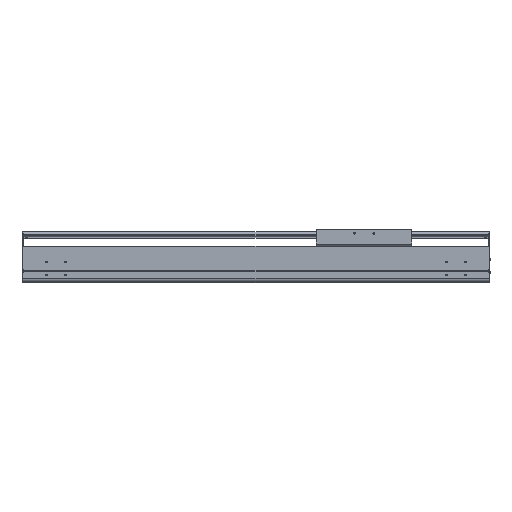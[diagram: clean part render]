
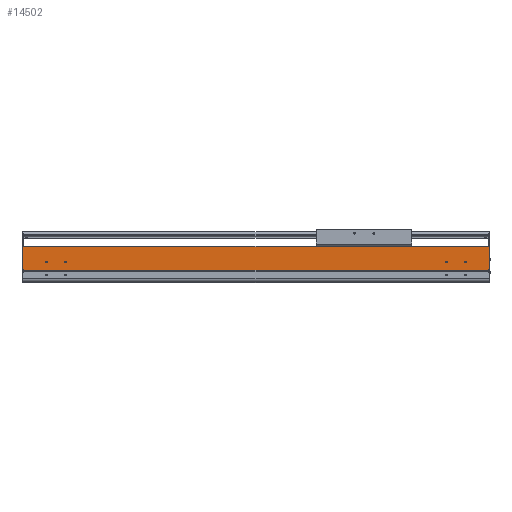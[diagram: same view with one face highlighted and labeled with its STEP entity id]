
A CAD part, top view. The second image highlights one B-rep face of the part: STEP entity #14502.
In plain terms, the highlighted planar face has unit normal (0, 0, 1).
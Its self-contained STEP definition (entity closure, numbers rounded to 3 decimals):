
#1840=DIRECTION('',(0.,-1.,0.));
#1841=VECTOR('',#1840,2.55);
#1842=CARTESIAN_POINT('',(0.,34.65,107.));
#1843=LINE('',#1842,#1841);
#2323=DIRECTION('',(1.,0.,0.));
#2324=VECTOR('',#2323,2.);
#2325=CARTESIAN_POINT('',(-1221.,34.65,107.));
#2326=LINE('',#2325,#2324);
#2327=CARTESIAN_POINT('',(-59.5,54.,107.));
#2328=DIRECTION('',(0.,0.,-1.));
#2329=DIRECTION('',(1.,0.,0.));
#2330=AXIS2_PLACEMENT_3D('',#2327,#2328,#2329);
#2332=CARTESIAN_POINT('',(-59.5,54.,107.));
#2333=DIRECTION('',(0.,0.,-1.));
#2334=DIRECTION('',(-1.,0.,0.));
#2335=AXIS2_PLACEMENT_3D('',#2332,#2333,#2334);
#2337=CARTESIAN_POINT('',(-109.5,54.,107.));
#2338=DIRECTION('',(0.,0.,-1.));
#2339=DIRECTION('',(1.,0.,0.));
#2340=AXIS2_PLACEMENT_3D('',#2337,#2338,#2339);
#2342=CARTESIAN_POINT('',(-109.5,54.,107.));
#2343=DIRECTION('',(0.,0.,-1.));
#2344=DIRECTION('',(-1.,0.,0.));
#2345=AXIS2_PLACEMENT_3D('',#2342,#2343,#2344);
#2347=CARTESIAN_POINT('',(-1159.5,54.,107.));
#2348=DIRECTION('',(0.,0.,-1.));
#2349=DIRECTION('',(1.,0.,0.));
#2350=AXIS2_PLACEMENT_3D('',#2347,#2348,#2349);
#2352=CARTESIAN_POINT('',(-1159.5,54.,107.));
#2353=DIRECTION('',(0.,0.,-1.));
#2354=DIRECTION('',(-1.,0.,0.));
#2355=AXIS2_PLACEMENT_3D('',#2352,#2353,#2354);
#2357=CARTESIAN_POINT('',(-1109.5,54.,107.));
#2358=DIRECTION('',(0.,0.,-1.));
#2359=DIRECTION('',(1.,0.,0.));
#2360=AXIS2_PLACEMENT_3D('',#2357,#2358,#2359);
#2362=CARTESIAN_POINT('',(-1109.5,54.,107.));
#2363=DIRECTION('',(0.,0.,-1.));
#2364=DIRECTION('',(-1.,0.,0.));
#2365=AXIS2_PLACEMENT_3D('',#2362,#2363,#2364);
#2367=DIRECTION('',(0.,-1.,0.));
#2368=VECTOR('',#2367,2.55);
#2369=CARTESIAN_POINT('',(-1219.,34.65,107.));
#2370=LINE('',#2369,#2368);
#2371=DIRECTION('',(0.,-1.,0.));
#2372=VECTOR('',#2371,58.85);
#2373=CARTESIAN_POINT('',(-1221.,93.5,107.));
#2374=LINE('',#2373,#2372);
#2375=DIRECTION('',(0.,1.,0.));
#2376=VECTOR('',#2375,58.85);
#2377=CARTESIAN_POINT('',(2.,34.65,107.));
#2378=LINE('',#2377,#2376);
#2379=DIRECTION('',(1.,0.,0.));
#2380=VECTOR('',#2379,1219.);
#2381=CARTESIAN_POINT('',(-1219.,32.1,107.));
#2382=LINE('',#2381,#2380);
#2487=DIRECTION('',(-1.,0.,0.));
#2488=VECTOR('',#2487,1223.);
#2489=CARTESIAN_POINT('',(2.,93.5,107.));
#2490=LINE('',#2489,#2488);
#7819=DIRECTION('',(1.,0.,0.));
#7820=VECTOR('',#7819,2.);
#7821=CARTESIAN_POINT('',(0.,34.65,107.));
#7822=LINE('',#7821,#7820);
#9149=CARTESIAN_POINT('',(-1221.,34.65,107.));
#9150=VERTEX_POINT('',#9149);
#9151=CARTESIAN_POINT('',(-1221.,93.5,107.));
#9152=VERTEX_POINT('',#9151);
#9381=CARTESIAN_POINT('',(-1219.,32.1,107.));
#9382=VERTEX_POINT('',#9381);
#9665=CARTESIAN_POINT('',(0.,32.1,107.));
#9666=VERTEX_POINT('',#9665);
#9667=CARTESIAN_POINT('',(-57.,54.,107.));
#9668=CARTESIAN_POINT('',(-62.,54.,107.));
#9669=VERTEX_POINT('',#9667);
#9670=VERTEX_POINT('',#9668);
#9671=CARTESIAN_POINT('',(-107.,54.,107.));
#9672=CARTESIAN_POINT('',(-112.,54.,107.));
#9673=VERTEX_POINT('',#9671);
#9674=VERTEX_POINT('',#9672);
#9675=CARTESIAN_POINT('',(-1157.,54.,107.));
#9676=CARTESIAN_POINT('',(-1162.,54.,107.));
#9677=VERTEX_POINT('',#9675);
#9678=VERTEX_POINT('',#9676);
#9679=CARTESIAN_POINT('',(-1107.,54.,107.));
#9680=CARTESIAN_POINT('',(-1112.,54.,107.));
#9681=VERTEX_POINT('',#9679);
#9682=VERTEX_POINT('',#9680);
#10326=CARTESIAN_POINT('',(2.,34.65,107.));
#10327=VERTEX_POINT('',#10326);
#10328=CARTESIAN_POINT('',(2.,93.5,107.));
#10329=VERTEX_POINT('',#10328);
#10780=CARTESIAN_POINT('',(0.,34.65,107.));
#10781=VERTEX_POINT('',#10780);
#10860=CARTESIAN_POINT('',(-1219.,34.65,107.));
#10861=VERTEX_POINT('',#10860);
#14460=CARTESIAN_POINT('',(-609.5,62.8,107.));
#14461=DIRECTION('',(0.,0.,1.));
#14462=DIRECTION('',(0.,-1.,0.));
#14463=AXIS2_PLACEMENT_3D('',#14460,#14461,#14462);
#14464=PLANE('',#14463);
#14465=ORIENTED_EDGE('',*,*,#11946,.F.);
#14466=ORIENTED_EDGE('',*,*,#14455,.F.);
#14467=ORIENTED_EDGE('',*,*,#12575,.F.);
#14469=ORIENTED_EDGE('',*,*,#14468,.F.);
#14470=ORIENTED_EDGE('',*,*,#11683,.F.);
#14472=ORIENTED_EDGE('',*,*,#14471,.F.);
#14473=ORIENTED_EDGE('',*,*,#14063,.T.);
#14475=ORIENTED_EDGE('',*,*,#14474,.F.);
#14476=EDGE_LOOP('',(#14465,#14466,#14467,#14469,#14470,#14472,#14473,#14475));
#14477=FACE_OUTER_BOUND('',#14476,.F.);
#14479=ORIENTED_EDGE('',*,*,#14478,.F.);
#14481=ORIENTED_EDGE('',*,*,#14480,.F.);
#14482=EDGE_LOOP('',(#14479,#14481));
#14483=FACE_BOUND('',#14482,.F.);
#14485=ORIENTED_EDGE('',*,*,#14484,.F.);
#14487=ORIENTED_EDGE('',*,*,#14486,.F.);
#14488=EDGE_LOOP('',(#14485,#14487));
#14489=FACE_BOUND('',#14488,.F.);
#14491=ORIENTED_EDGE('',*,*,#14490,.F.);
#14493=ORIENTED_EDGE('',*,*,#14492,.F.);
#14494=EDGE_LOOP('',(#14491,#14493));
#14495=FACE_BOUND('',#14494,.F.);
#14497=ORIENTED_EDGE('',*,*,#14496,.F.);
#14499=ORIENTED_EDGE('',*,*,#14498,.F.);
#14500=EDGE_LOOP('',(#14497,#14499));
#14501=FACE_BOUND('',#14500,.F.);
#14502=ADVANCED_FACE('',(#14477,#14483,#14489,#14495,#14501),#14464,.T.);
#2331=CIRCLE('',#2330,2.5);
#2336=CIRCLE('',#2335,2.5);
#2341=CIRCLE('',#2340,2.5);
#2346=CIRCLE('',#2345,2.5);
#2351=CIRCLE('',#2350,2.5);
#2356=CIRCLE('',#2355,2.5);
#2361=CIRCLE('',#2360,2.5);
#2366=CIRCLE('',#2365,2.5);
#11683=EDGE_CURVE('',#10327,#10329,#2378,.T.);
#11946=EDGE_CURVE('',#10861,#9382,#2370,.T.);
#12575=EDGE_CURVE('',#9152,#9150,#2374,.T.);
#14063=EDGE_CURVE('',#10781,#9666,#1843,.T.);
#14455=EDGE_CURVE('',#9150,#10861,#2326,.T.);
#14468=EDGE_CURVE('',#10329,#9152,#2490,.T.);
#14471=EDGE_CURVE('',#10781,#10327,#7822,.T.);
#14474=EDGE_CURVE('',#9382,#9666,#2382,.T.);
#14478=EDGE_CURVE('',#9673,#9674,#2341,.T.);
#14480=EDGE_CURVE('',#9674,#9673,#2346,.T.);
#14484=EDGE_CURVE('',#9677,#9678,#2351,.T.);
#14486=EDGE_CURVE('',#9678,#9677,#2356,.T.);
#14490=EDGE_CURVE('',#9681,#9682,#2361,.T.);
#14492=EDGE_CURVE('',#9682,#9681,#2366,.T.);
#14496=EDGE_CURVE('',#9669,#9670,#2331,.T.);
#14498=EDGE_CURVE('',#9670,#9669,#2336,.T.);
